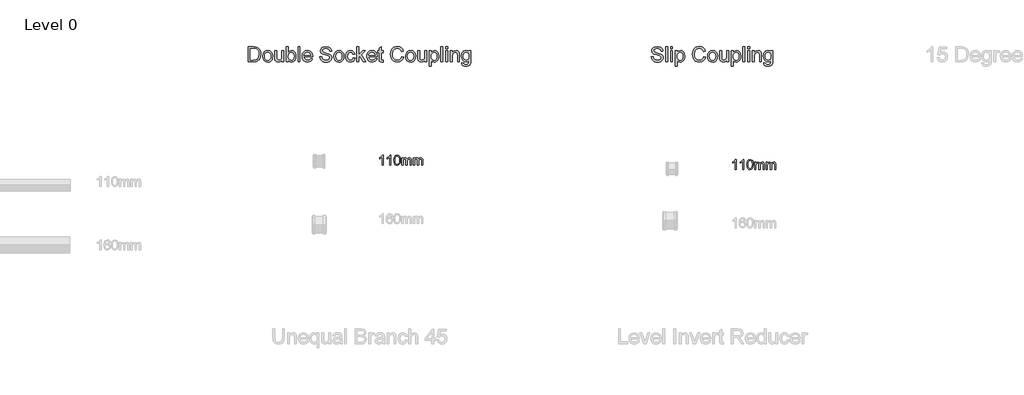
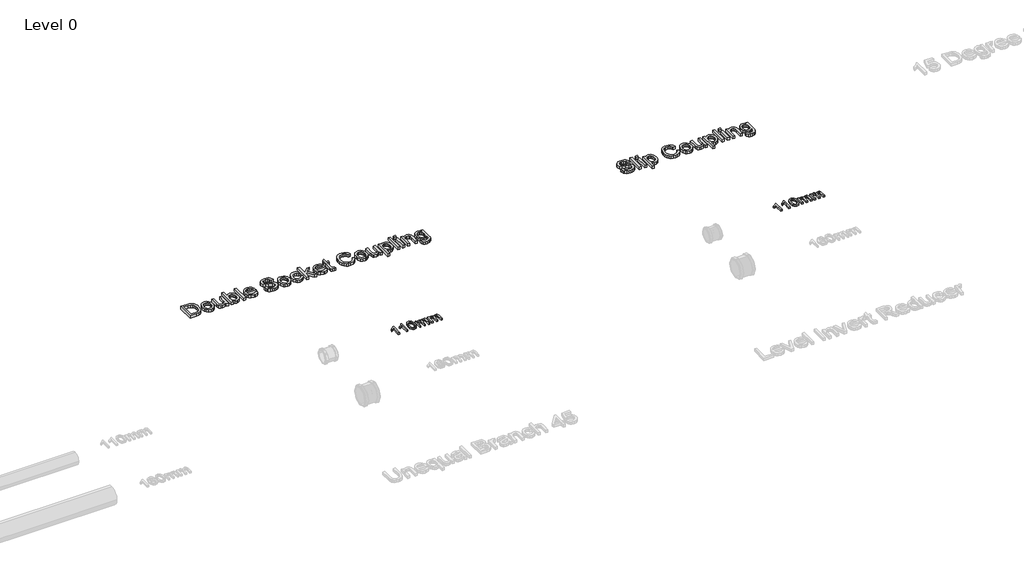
# One storey, part 6 of 15: 4 proxies.
"""IFC4 building model written with IfcOpenShell, lengths in millimetres."""

from ifc_helpers import new_model, si_unit, origin, origin_with_axes, place, context, project, spatial, polyline, outline, extrude, element, save

model = new_model("IFC4")

# Units and contexts
model_context = context("Model", 3, world=origin())
ifc_project = project(units=[si_unit("LENGTHUNIT", "METRE", prefix="MILLI")], contexts=[model_context])

# Site, building, storey
site = spatial("IfcSite", under=ifc_project)
building = spatial("IfcBuilding", under=site)
storey = spatial("IfcBuildingStorey", under=building, Name="Level 0", Elevation=0.0)

# Proxies
placement = place(None, origin())
element("IfcBuildingElementProxy", 1, Name="100mm Arial", ObjectType="100mm Arial", at=placement, inside=storey, context=model_context, shape_type="SweptSolid", body=[
    extrude(outline(polyline([(-17291.7293188, 8237.7167304), (-17304.0370111, 8237.7167304), (-17304.0370111, 8314.4474996), (-17315.6956649, 8306.1422111), (-17328.6523957, 8299.9282688), (-17328.6523957, 8311.5628842), (-17310.6115303, 8323.0773073), (-17299.6620111, 8336.1782688), (-17291.7293188, 8336.1782688), (-17291.7293188, 8237.7167304)])), origin_with_axes(), (0.0, 0.0, 1.0), 15.0),
    extrude(outline(polyline([(-17216.3447034, 8237.7167304), (-17228.6523957, 8237.7167304), (-17228.6523957, 8314.4474996), (-17240.3110495, 8306.1422111), (-17253.2677803, 8299.9282688), (-17253.2677803, 8311.5628842), (-17235.2269149, 8323.0773073), (-17224.2773957, 8336.1782688), (-17216.3447034, 8336.1782688), (-17216.3447034, 8237.7167304)])), origin_with_axes(), (0.0, 0.0, 1.0), 15.0),
    extrude(outline(polyline([(-17187.1139341, 8286.1542304), (-17183.4961457, 8314.4835573), (-17172.7509534, 8330.8176919), (-17154.8062418, 8336.1782688), (-17140.4312418, 8333.0051919), (-17130.5033572, 8323.8585573), (-17124.7341264, 8309.2912496), (-17122.4985495, 8286.1542304), (-17126.0802803, 8257.9450958), (-17136.7894149, 8241.5749035), (-17154.8062418, 8236.1782688), (-17167.5947034, 8238.5220188), (-17177.3062418, 8245.5532688), (-17184.6620111, 8262.2059131), (-17187.1139341, 8286.1542304)]), holes=[polyline([(-17174.8062418, 8286.1782688), (-17173.3639341, 8266.8182929), (-17169.0370111, 8255.613365), (-17162.5947034, 8250.2678121), (-17154.8062418, 8248.4859611), (-17147.0177803, 8250.2738217), (-17140.5754726, 8255.6374035), (-17136.2485495, 8266.848341), (-17134.8062418, 8286.1782688), (-17136.2004726, 8305.1025477), (-17140.3831649, 8316.394615), (-17146.8134534, 8322.0015861), (-17154.9504726, 8323.8705765), (-17162.6547995, 8322.2239419), (-17168.8447034, 8317.2840381), (-17173.3158572, 8305.2888458), (-17174.8062418, 8286.1782688)])]), origin_with_axes(), (0.0, 0.0, 1.0), 15.0),
    extrude(outline(polyline([(-17108.6523957, 8237.7167304), (-17108.6523957, 8310.0244227), (-17096.3447034, 8310.0244227), (-17096.3447034, 8298.1253842), (-17087.8831649, 8307.8729804), (-17075.8398957, 8311.5628842), (-17063.5081649, 8307.800865), (-17056.7293188, 8297.2599996), (-17047.1259534, 8307.9871631), (-17034.9985495, 8311.5628842), (-17025.7467466, 8310.0755044), (-17018.9047995, 8305.613365), (-17014.6770351, 8298.0562736), (-17013.2677803, 8287.2840381), (-17013.2677803, 8237.7167304), (-17025.5754726, 8237.7167304), (-17025.5754726, 8281.9955765), (-17026.7172995, 8292.2720188), (-17030.8519149, 8297.332115), (-17037.8831649, 8299.2551919), (-17049.9865303, 8294.3273073), (-17054.8062418, 8278.5340381), (-17054.8062418, 8237.7167304), (-17067.1139341, 8237.7167304), (-17067.1139341, 8283.3657688), (-17069.9624918, 8295.2888458), (-17079.3014341, 8299.2551919), (-17088.4120111, 8296.6109611), (-17094.4697034, 8288.8705765), (-17096.3447034, 8274.1830765), (-17096.3447034, 8237.7167304), (-17108.6523957, 8237.7167304)])), origin_with_axes(), (0.0, 0.0, 1.0), 15.0),
    extrude(outline(polyline([(-16994.8062418, 8237.7167304), (-16994.8062418, 8310.0244227), (-16982.4985495, 8310.0244227), (-16982.4985495, 8298.1253842), (-16974.0370111, 8307.8729804), (-16961.9937418, 8311.5628842), (-16949.6620111, 8307.800865), (-16942.8831649, 8297.2599996), (-16933.2797995, 8307.9871631), (-16921.1523957, 8311.5628842), (-16911.9005928, 8310.0755044), (-16905.0586457, 8305.613365), (-16900.8308813, 8298.0562736), (-16899.4216264, 8287.2840381), (-16899.4216264, 8237.7167304), (-16911.7293188, 8237.7167304), (-16911.7293188, 8281.9955765), (-16912.8711457, 8292.2720188), (-16917.0057611, 8297.332115), (-16924.0370111, 8299.2551919), (-16936.1403764, 8294.3273073), (-16940.960088, 8278.5340381), (-16940.960088, 8237.7167304), (-16953.2677803, 8237.7167304), (-16953.2677803, 8283.3657688), (-16956.116338, 8295.2888458), (-16965.4552803, 8299.2551919), (-16974.5658572, 8296.6109611), (-16980.6235495, 8288.8705765), (-16982.4985495, 8274.1830765), (-16982.4985495, 8237.7167304), (-16994.8062418, 8237.7167304)])), origin_with_axes(), (0.0, 0.0, 1.0), 15.0),
])
element("IfcBuildingElementProxy", 2, Name="100mm Arial", ObjectType="100mm Arial", at=placement, inside=storey, context=model_context, shape_type="SweptSolid", body=[
    extrude(outline(polyline([(-20791.7293188, 8279.7032019), (-20804.0370111, 8279.7032019), (-20804.0370111, 8356.4339711), (-20815.6956649, 8348.1286827), (-20828.6523957, 8341.9147404), (-20828.6523957, 8353.5493557), (-20810.6115303, 8365.0637788), (-20799.6620111, 8378.1647404), (-20791.7293188, 8378.1647404), (-20791.7293188, 8279.7032019)])), origin_with_axes(), (0.0, 0.0, 1.0), 15.0),
    extrude(outline(polyline([(-20716.3447034, 8279.7032019), (-20728.6523957, 8279.7032019), (-20728.6523957, 8356.4339711), (-20740.3110495, 8348.1286827), (-20753.2677803, 8341.9147404), (-20753.2677803, 8353.5493557), (-20735.2269149, 8365.0637788), (-20724.2773957, 8378.1647404), (-20716.3447034, 8378.1647404), (-20716.3447034, 8279.7032019)])), origin_with_axes(), (0.0, 0.0, 1.0), 15.0),
    extrude(outline(polyline([(-20687.1139341, 8328.1407019), (-20683.4961457, 8356.4700288), (-20672.7509534, 8372.8041634), (-20654.8062418, 8378.1647404), (-20640.4312418, 8374.9916634), (-20630.5033572, 8365.8450288), (-20624.7341264, 8351.2777211), (-20622.4985495, 8328.1407019), (-20626.0802803, 8299.9315673), (-20636.7894149, 8283.561375), (-20654.8062418, 8278.1647404), (-20667.5947034, 8280.5084904), (-20677.3062418, 8287.5397404), (-20684.6620111, 8304.1923846), (-20687.1139341, 8328.1407019)]), holes=[polyline([(-20674.8062418, 8328.1647404), (-20673.3639341, 8308.8047644), (-20669.0370111, 8297.5998365), (-20662.5947034, 8292.2542836), (-20654.8062418, 8290.4724327), (-20647.0177803, 8292.2602932), (-20640.5754726, 8297.623875), (-20636.2485495, 8308.8348125), (-20634.8062418, 8328.1647404), (-20636.2004726, 8347.0890192), (-20640.3831649, 8358.3810865), (-20646.8134534, 8363.9880577), (-20654.9504726, 8365.857048), (-20662.6547995, 8364.2104134), (-20668.8447034, 8359.2705096), (-20673.3158572, 8347.2753173), (-20674.8062418, 8328.1647404)])]), origin_with_axes(), (0.0, 0.0, 1.0), 15.0),
    extrude(outline(polyline([(-20608.6523957, 8279.7032019), (-20608.6523957, 8352.0108942), (-20596.3447034, 8352.0108942), (-20596.3447034, 8340.1118557), (-20587.8831649, 8349.8594519), (-20575.8398957, 8353.5493557), (-20563.5081649, 8349.7873365), (-20556.7293188, 8339.2464711), (-20547.1259534, 8349.9736346), (-20534.9985495, 8353.5493557), (-20525.7467466, 8352.0619759), (-20518.9047995, 8347.5998365), (-20514.6770351, 8340.0427452), (-20513.2677803, 8329.2705096), (-20513.2677803, 8279.7032019), (-20525.5754726, 8279.7032019), (-20525.5754726, 8323.982048), (-20526.7172995, 8334.2584904), (-20530.8519149, 8339.3185865), (-20537.8831649, 8341.2416634), (-20549.9865303, 8336.3137788), (-20554.8062418, 8320.5205096), (-20554.8062418, 8279.7032019), (-20567.1139341, 8279.7032019), (-20567.1139341, 8325.3522404), (-20569.9624918, 8337.2753173), (-20579.3014341, 8341.2416634), (-20588.4120111, 8338.5974327), (-20594.4697034, 8330.857048), (-20596.3447034, 8316.169548), (-20596.3447034, 8279.7032019), (-20608.6523957, 8279.7032019)])), origin_with_axes(), (0.0, 0.0, 1.0), 15.0),
    extrude(outline(polyline([(-20494.8062418, 8279.7032019), (-20494.8062418, 8352.0108942), (-20482.4985495, 8352.0108942), (-20482.4985495, 8340.1118557), (-20474.0370111, 8349.8594519), (-20461.9937418, 8353.5493557), (-20449.6620111, 8349.7873365), (-20442.8831649, 8339.2464711), (-20433.2797995, 8349.9736346), (-20421.1523957, 8353.5493557), (-20411.9005928, 8352.0619759), (-20405.0586457, 8347.5998365), (-20400.8308813, 8340.0427452), (-20399.4216264, 8329.2705096), (-20399.4216264, 8279.7032019), (-20411.7293188, 8279.7032019), (-20411.7293188, 8323.982048), (-20412.8711457, 8334.2584904), (-20417.0057611, 8339.3185865), (-20424.0370111, 8341.2416634), (-20436.1403764, 8336.3137788), (-20440.960088, 8320.5205096), (-20440.960088, 8279.7032019), (-20453.2677803, 8279.7032019), (-20453.2677803, 8325.3522404), (-20456.116338, 8337.2753173), (-20465.4552803, 8341.2416634), (-20474.5658572, 8338.5974327), (-20480.6235495, 8330.857048), (-20482.4985495, 8316.169548), (-20482.4985495, 8279.7032019), (-20494.8062418, 8279.7032019)])), origin_with_axes(), (0.0, 0.0, 1.0), 15.0),
])
element("IfcBuildingElementProxy", 3, Name="150mm Arial", ObjectType="150mm Arial", at=placement, inside=storey, context=model_context, shape_type="SweptSolid", body=[
    extrude(outline(polyline([(-22132.1238255, 9305.2145219), (-22132.1238255, 9455.8989871), (-22080.1420996, 9455.8989871), (-22053.2499258, 9453.7284834), (-22031.1034297, 9442.9495409), (-22020.6831721, 9431.4716227), (-22013.2611529, 9417.1978012), (-22008.8189778, 9400.4039882), (-22007.3382528, 9381.3660949), (-22011.3481665, 9350.960648), (-22021.6488624, 9329.016487), (-22035.407649, 9315.3496709), (-22053.4154727, 9307.7896959), (-22077.640502, 9305.2145219), (-22132.1238255, 9305.2145219)]), holes=[polyline([(-22113.2882674, 9324.0500801), (-22079.9581586, 9324.0500801), (-22055.7147351, 9326.7724068), (-22041.7352193, 9334.4611405), (-22030.2756952, 9353.16794), (-22026.1738109, 9381.6604005), (-22028.1833663, 9402.1882158), (-22034.2120325, 9417.344954), (-22043.1193753, 9427.7560145), (-22053.7649606, 9434.0467966), (-22080.4731934, 9437.063429), (-22113.2882674, 9437.063429), (-22113.2882674, 9324.0500801)])]), origin_with_axes(), (0.0, 0.0, 1.0), 25.0),
    extrude(outline(polyline([(-21988.5026946, 9360.543974), (-21984.4284015, 9387.2246157), (-21972.2055222, 9405.9774004), (-21957.1039663, 9415.1652532), (-21939.0225663, 9418.2278708), (-21919.2351134, 9414.4984671), (-21903.4299832, 9403.3102559), (-21893.0695065, 9385.5461541), (-21889.6160143, 9362.0890784), (-21891.1427246, 9343.0603822), (-21895.7228554, 9328.5750286), (-21903.2230496, 9317.7271083), (-21913.5099499, 9309.6107118), (-21925.7282307, 9304.5477358), (-21939.0225663, 9302.8600771), (-21959.0491424, 9306.5756853), (-21974.8358785, 9317.7225098), (-21985.0859906, 9335.8590921), (-21988.5026946, 9360.543974)]), holes=[polyline([(-21969.6671365, 9360.5807622), (-21967.4874356, 9343.5340302), (-21960.9483332, 9331.3893259), (-21951.1074898, 9324.1190579), (-21939.0225663, 9321.6956353), (-21926.992825, 9324.1328535), (-21917.1703757, 9331.4445082), (-21910.6312733, 9343.7501609), (-21908.4515725, 9361.1693734), (-21910.6450689, 9377.7194646), (-21917.225558, 9389.6986221), (-21927.0618029, 9396.96889), (-21939.0225663, 9399.3923127), (-21951.1074898, 9396.9780871), (-21960.9483332, 9389.7354103), (-21967.4874356, 9377.6182971), (-21969.6671365, 9360.5807622)])]), origin_with_axes(), (0.0, 0.0, 1.0), 25.0),
    extrude(outline(polyline([(-21797.7926683, 9305.2145219), (-21797.7926683, 9324.2340211), (-21812.5447363, 9308.2035631), (-21831.7849647, 9302.8600771), (-21849.4984827, 9306.6124735), (-21861.712165, 9316.0302526), (-21867.3223654, 9329.8994038), (-21868.4260114, 9347.4105868), (-21868.4260114, 9415.8734261), (-21849.5904532, 9415.8734261), (-21849.5904532, 9356.2765428), (-21848.450019, 9337.0731027), (-21841.0004086, 9325.7975195), (-21826.9657105, 9321.6956353), (-21811.2387552, 9325.88949), (-21800.8460889, 9337.312226), (-21797.7926683, 9358.2998938), (-21797.7926683, 9415.8734261), (-21778.9571102, 9415.8734261), (-21778.9571102, 9305.2145219), (-21797.7926683, 9305.2145219)])), origin_with_axes(), (0.0, 0.0, 1.0), 25.0),
    extrude(outline(polyline([(-21734.2226595, 9305.2145219), (-21753.0582177, 9305.2145219), (-21753.0582177, 9455.8989871), (-21734.2226595, 9455.8989871), (-21734.2226595, 9400.0177121), (-21721.03409, 9413.6753311), (-21704.6449471, 9418.2278708), (-21685.7726008, 9414.1259866), (-21671.1308974, 9402.592886), (-21662.1361826, 9384.6586388), (-21658.8804269, 9362.199443), (-21662.2511457, 9337.0547086), (-21672.3633021, 9318.3479091), (-21687.202742, 9306.7320351), (-21704.7553117, 9302.8600771), (-21721.5031396, 9307.8540752), (-21734.2226595, 9322.8360695), (-21734.2226595, 9305.2145219)]), holes=[polyline([(-21734.2226595, 9361.3165262), (-21732.9350726, 9345.607965), (-21729.0723116, 9334.9761753), (-21719.2038771, 9325.0157703), (-21706.3739925, 9321.6956353), (-21695.5030796, 9324.1420506), (-21686.2140592, 9331.4812964), (-21679.8405036, 9343.6673875), (-21677.7159851, 9360.6543386), (-21679.7531316, 9377.8896101), (-21685.8645713, 9389.9377454), (-21694.8638846, 9397.0286709), (-21705.5646521, 9399.3923127), (-21716.4355651, 9396.9458974), (-21725.7245855, 9389.6066516), (-21732.098141, 9377.6412897), (-21734.2226595, 9361.3165262)])]), origin_with_axes(), (0.0, 0.0, 1.0), 25.0),
    extrude(outline(polyline([(-21637.690424, 9305.2145219), (-21637.690424, 9455.8989871), (-21618.8548659, 9455.8989871), (-21618.8548659, 9305.2145219), (-21637.690424, 9305.2145219)])), origin_with_axes(), (0.0, 0.0, 1.0), 25.0),
    extrude(outline(polyline([(-21513.1255804, 9338.1767487), (-21494.6579043, 9335.8223039), (-21501.3119699, 9321.9071674), (-21511.929964, 9311.505304), (-21526.2727632, 9305.0213839), (-21544.1012444, 9302.8600771), (-21566.2017553, 9306.5894809), (-21583.2071005, 9317.7776921), (-21594.0504223, 9335.6981437), (-21597.6648629, 9359.624269), (-21594.0136341, 9384.3551361), (-21583.0599477, 9402.8504034), (-21566.2845287, 9414.383504), (-21545.1681022, 9418.2278708), (-21524.7092648, 9414.392701), (-21508.3615086, 9402.8871916), (-21497.642347, 9384.4287125), (-21494.0692931, 9359.7346336), (-21494.1796577, 9354.6578621), (-21578.8293048, 9354.6578621), (-21575.5689506, 9340.5587846), (-21567.99518, 9330.1937094), (-21557.0644862, 9323.8201538), (-21543.7333624, 9321.6956353), (-21525.2656863, 9325.6319727), (-21513.1255804, 9338.1767487)]), holes=[polyline([(-21578.8293048, 9373.4934202), (-21512.9048512, 9373.4934202), (-21515.4524341, 9383.4446282), (-21520.4464321, 9390.5631448), (-21531.4277097, 9397.1850207), (-21545.2416786, 9399.3923127), (-21557.938206, 9397.6310776), (-21568.4366384, 9392.3473725), (-21575.7344975, 9384.1114143), (-21578.8293048, 9373.4934202)])]), origin_with_axes(), (0.0, 0.0, 1.0), 25.0),
    extrude(outline(polyline([(-21421.0815052, 9357.0123068), (-21402.2459471, 9357.0123068), (-21396.1758942, 9338.1583546), (-21381.3502498, 9326.2389779), (-21358.7622953, 9321.6956353), (-21339.0806085, 9325.135332), (-21326.3702856, 9334.5898992), (-21322.1948249, 9347.2266458), (-21325.3218219, 9358.9804755), (-21338.1241153, 9367.5337319), (-21365.5497181, 9374.7258249), (-21395.0722482, 9384.0148453), (-21411.0935091, 9398.0311493), (-21416.3726157, 9416.7563429), (-21414.7401394, 9427.7882042), (-21409.8427103, 9438.0751045), (-21401.8090872, 9446.7939078), (-21390.7680288, 9453.1214781), (-21362.8457854, 9458.2534319), (-21333.0473438, 9452.8823548), (-21321.6246079, 9446.2512818), (-21313.1817161, 9437.1002172), (-21307.8382301, 9425.999378), (-21305.7137116, 9413.5189813), (-21324.5492697, 9413.5189813), (-21328.0073605, 9424.7577763), (-21335.2178476, 9432.8695742), (-21346.4842337, 9437.7807989), (-21362.1100214, 9439.4178738), (-21378.1036912, 9437.799193), (-21389.0757717, 9432.9431506), (-21395.4217361, 9425.7970429), (-21397.5370576, 9417.3081658), (-21396.0379384, 9410.0700876), (-21391.540581, 9404.248355), (-21360.7856462, 9393.72693), (-21327.4555375, 9384.2723627), (-21316.7179817, 9377.4389546), (-21309.2269846, 9369.0052599), (-21304.8261962, 9359.063249), (-21303.3592668, 9347.7048924), (-21305.0469254, 9336.0936169), (-21310.1099014, 9325.1721202), (-21318.341261, 9315.7727352), (-21329.5340707, 9308.727795), (-21342.9939532, 9304.3270066), (-21358.0265313, 9302.8600771), (-21376.4804119, 9304.4419697), (-21391.6693397, 9309.1876475), (-21403.7680589, 9317.1155045), (-21412.9513132, 9328.2439348), (-21418.8466221, 9341.8003863), (-21421.0815052, 9357.0123068)])), origin_with_axes(), (0.0, 0.0, 1.0), 25.0),
    extrude(outline(polyline([(-21282.1692639, 9360.543974), (-21278.0949708, 9387.2246157), (-21265.8720915, 9405.9774004), (-21250.7705356, 9415.1652532), (-21232.6891355, 9418.2278708), (-21212.9016827, 9414.4984671), (-21197.0965525, 9403.3102559), (-21186.7360758, 9385.5461541), (-21183.2825836, 9362.0890784), (-21184.8092938, 9343.0603822), (-21189.3894247, 9328.5750286), (-21196.8896189, 9317.7271083), (-21207.1765192, 9309.6107118), (-21219.3947999, 9304.5477358), (-21232.6891355, 9302.8600771), (-21252.7157116, 9306.5756853), (-21268.5024477, 9317.7225098), (-21278.7525598, 9335.8590921), (-21282.1692639, 9360.543974)]), holes=[polyline([(-21263.3337057, 9360.5807622), (-21261.1540049, 9343.5340302), (-21254.6149024, 9331.3893259), (-21244.7740591, 9324.1190579), (-21232.6891355, 9321.6956353), (-21220.6593943, 9324.1328535), (-21210.836945, 9331.4445082), (-21204.2978425, 9343.7501609), (-21202.1181417, 9361.1693734), (-21204.3116381, 9377.7194646), (-21210.8921273, 9389.6986221), (-21220.7283722, 9396.96889), (-21232.6891355, 9399.3923127), (-21244.7740591, 9396.9780871), (-21254.6149024, 9389.7354103), (-21261.1540049, 9377.6182971), (-21263.3337057, 9360.5807622)])]), origin_with_axes(), (0.0, 0.0, 1.0), 25.0),
    extrude(outline(polyline([(-21091.4592376, 9345.240083), (-21072.6236794, 9342.8856382), (-21077.8751949, 9326.1332119), (-21087.7436294, 9313.4734727), (-21101.3000809, 9305.513426), (-21117.6156474, 9302.8600771), (-21137.6514206, 9306.5618897), (-21153.3185951, 9317.6673275), (-21163.4307514, 9335.6889467), (-21166.8014702, 9360.1393038), (-21165.3621319, 9376.9009272), (-21161.044117, 9391.4276675), (-21153.7784476, 9403.1585046), (-21143.4961458, 9411.5324185), (-21131.1950916, 9416.5540078), (-21117.8731648, 9418.2278708), (-21101.95767, 9415.9286084), (-21089.2335515, 9409.030821), (-21080.1054795, 9397.9023906), (-21074.9781242, 9382.9111993), (-21093.8136823, 9380.5567545), (-21102.5508797, 9394.665029), (-21117.726012, 9399.3923127), (-21129.8983075, 9397.0654591), (-21139.5598084, 9390.0848982), (-21145.8643861, 9378.0735511), (-21147.965912, 9360.6543386), (-21145.9103714, 9343.0006013), (-21139.7437494, 9330.9478675), (-21130.2569925, 9324.0086933), (-21118.2410468, 9321.6956353), (-21108.4875754, 9323.1395721), (-21100.4907406, 9327.4713826), (-21094.6736065, 9334.8014314), (-21091.4592376, 9345.240083)])), origin_with_axes(), (0.0, 0.0, 1.0), 25.0),
    extrude(outline(polyline([(-21056.142566, 9305.2145219), (-21056.142566, 9455.8989871), (-21037.3070079, 9455.8989871), (-21037.3070079, 9374.92816), (-20995.0741548, 9415.8734261), (-20969.0281096, 9415.8734261), (-21011.7759974, 9374.4131252), (-20966.6736648, 9305.2145219), (-20988.6730081, 9305.2145219), (-21025.2772666, 9361.3165262), (-21037.3070079, 9349.6546669), (-21037.3070079, 9305.2145219), (-21056.142566, 9305.2145219)])), origin_with_axes(), (0.0, 0.0, 1.0), 25.0),
    extrude(outline(polyline([(-20872.7166032, 9338.1767487), (-20854.2489271, 9335.8223039), (-20860.9029927, 9321.9071674), (-20871.5209868, 9311.505304), (-20885.863786, 9305.0213839), (-20903.6922672, 9302.8600771), (-20925.7927781, 9306.5894809), (-20942.7981233, 9317.7776921), (-20953.6414451, 9335.6981437), (-20957.2558857, 9359.624269), (-20953.6046569, 9384.3551361), (-20942.6509705, 9402.8504034), (-20925.8755515, 9414.383504), (-20904.759125, 9418.2278708), (-20884.3002876, 9414.392701), (-20867.9525314, 9402.8871916), (-20857.2333698, 9384.4287125), (-20853.6603159, 9359.7346336), (-20853.7706805, 9354.6578621), (-20938.4203276, 9354.6578621), (-20935.1599734, 9340.5587846), (-20927.5862028, 9330.1937094), (-20916.655509, 9323.8201538), (-20903.3243852, 9321.6956353), (-20884.8567091, 9325.6319727), (-20872.7166032, 9338.1767487)]), holes=[polyline([(-20938.4203276, 9373.4934202), (-20872.495874, 9373.4934202), (-20875.0434569, 9383.4446282), (-20880.0374549, 9390.5631448), (-20891.0187325, 9397.1850207), (-20904.8327014, 9399.3923127), (-20917.5292288, 9397.6310776), (-20928.0276612, 9392.3473725), (-20935.3255203, 9384.1114143), (-20938.4203276, 9373.4934202)])]), origin_with_axes(), (0.0, 0.0, 1.0), 25.0),
    extrude(outline(polyline([(-20794.7991967, 9320.9230831), (-20792.4447519, 9304.6626989), (-20806.5346323, 9302.8600771), (-20822.3167699, 9305.9870741), (-20830.1894446, 9314.1908426), (-20832.470313, 9335.5647865), (-20832.470313, 9397.0378679), (-20846.5969816, 9397.0378679), (-20846.5969816, 9415.8734261), (-20832.470313, 9415.8734261), (-20832.470313, 9442.7655999), (-20813.6347548, 9453.838848), (-20813.6347548, 9415.8734261), (-20794.7991967, 9415.8734261), (-20794.7991967, 9397.0378679), (-20813.6347548, 9397.0378679), (-20813.6347548, 9336.1166095), (-20812.6414734, 9326.4045248), (-20809.422506, 9322.9648282), (-20803.0029652, 9321.6956353), (-20794.7991967, 9320.9230831)])), origin_with_axes(), (0.0, 0.0, 1.0), 25.0),
    extrude(outline(polyline([(-20608.7980599, 9358.7781404), (-20589.9625017, 9353.9220981), (-20598.6537139, 9331.9733385), (-20612.2929389, 9315.9382821), (-20630.208792, 9306.1296284), (-20651.7298887, 9302.8600771), (-20673.5774807, 9305.3340836), (-20690.9277153, 9312.7561028), (-20704.2266494, 9324.8686175), (-20713.92034, 9341.4141102), (-20719.8386416, 9360.8658707), (-20721.8114088, 9381.6971887), (-20719.5811242, 9403.6689409), (-20712.8902704, 9422.6424548), (-20702.0883354, 9438.0153237), (-20687.5248069, 9449.1851407), (-20670.2527472, 9455.9863591), (-20651.3252185, 9458.2534319), (-20630.673243, 9455.319573), (-20613.5989199, 9446.5179963), (-20600.6356781, 9432.3913277), (-20592.3169465, 9413.4821931), (-20611.1525047, 9408.9940328), (-20617.6824101, 9422.7298268), (-20626.6035485, 9432.1522044), (-20638.0262844, 9437.6014564), (-20652.0609825, 9439.4178738), (-20668.2385933, 9437.4037198), (-20681.5283303, 9431.3612581), (-20691.6128955, 9421.9250849), (-20698.1749906, 9409.7297967), (-20702.9758507, 9381.7339769), (-20701.5549065, 9364.3331585), (-20697.2920738, 9349.2867849), (-20690.0264044, 9337.1696717), (-20679.5969499, 9328.5566345), (-20667.0935606, 9323.4108851), (-20653.6060869, 9321.6956353), (-20637.8837301, 9324.031686), (-20624.7825326, 9331.039838), (-20614.8911054, 9342.6465149), (-20608.7980599, 9358.7781404)])), origin_with_axes(), (0.0, 0.0, 1.0), 25.0),
    extrude(outline(polyline([(-20571.1269436, 9360.543974), (-20567.0526505, 9387.2246157), (-20554.8297712, 9405.9774004), (-20539.7282153, 9415.1652532), (-20521.6468152, 9418.2278708), (-20501.8593624, 9414.4984671), (-20486.0542322, 9403.3102559), (-20475.6937555, 9385.5461541), (-20472.2402633, 9362.0890784), (-20473.7669736, 9343.0603822), (-20478.3471044, 9328.5750286), (-20485.8472986, 9317.7271083), (-20496.1341989, 9309.6107118), (-20508.3524796, 9304.5477358), (-20521.6468152, 9302.8600771), (-20541.6733914, 9306.5756853), (-20557.4601275, 9317.7225098), (-20567.7102396, 9335.8590921), (-20571.1269436, 9360.543974)]), holes=[polyline([(-20552.2913854, 9360.5807622), (-20550.1116846, 9343.5340302), (-20543.5725822, 9331.3893259), (-20533.7317388, 9324.1190579), (-20521.6468152, 9321.6956353), (-20509.617074, 9324.1328535), (-20499.7946247, 9331.4445082), (-20493.2555223, 9343.7501609), (-20491.0758214, 9361.1693734), (-20493.2693178, 9377.7194646), (-20499.849807, 9389.6986221), (-20509.6860519, 9396.96889), (-20521.6468152, 9399.3923127), (-20533.7317388, 9396.9780871), (-20543.5725822, 9389.7354103), (-20550.1116846, 9377.6182971), (-20552.2913854, 9360.5807622)])]), origin_with_axes(), (0.0, 0.0, 1.0), 25.0),
    extrude(outline(polyline([(-20380.4169173, 9305.2145219), (-20380.4169173, 9324.2340211), (-20395.1689853, 9308.2035631), (-20414.4092136, 9302.8600771), (-20432.1227317, 9306.6124735), (-20444.336414, 9316.0302526), (-20449.9466144, 9329.8994038), (-20451.0502604, 9347.4105868), (-20451.0502604, 9415.8734261), (-20432.2147022, 9415.8734261), (-20432.2147022, 9356.2765428), (-20431.074268, 9337.0731027), (-20423.6246576, 9325.7975195), (-20409.5899595, 9321.6956353), (-20393.8630042, 9325.88949), (-20383.4703379, 9337.312226), (-20380.4169173, 9358.2998938), (-20380.4169173, 9415.8734261), (-20361.5813591, 9415.8734261), (-20361.5813591, 9305.2145219), (-20380.4169173, 9305.2145219)])), origin_with_axes(), (0.0, 0.0, 1.0), 25.0),
    extrude(outline(polyline([(-20335.6824667, 9262.8345161), (-20335.6824667, 9415.8734261), (-20316.8469085, 9415.8734261), (-20316.8469085, 9397.4057499), (-20303.8238859, 9413.0223406), (-20286.2391265, 9418.2278708), (-20273.5012124, 9416.406855), (-20262.363585, 9410.9438073), (-20253.2952939, 9402.1698217), (-20246.7653884, 9390.415992), (-20241.5046759, 9361.3901026), (-20242.9899995, 9345.2814697), (-20247.4459701, 9330.8742911), (-20254.7300336, 9318.8997321), (-20264.6996357, 9310.0889584), (-20276.3109112, 9304.6672975), (-20288.5199949, 9302.8600771), (-20304.9091378, 9307.6977254), (-20316.8469085, 9319.9298017), (-20316.8469085, 9262.8345161), (-20335.6824667, 9262.8345161)]), holes=[polyline([(-20316.8469085, 9359.6610572), (-20314.809762, 9342.7752736), (-20308.6983223, 9330.9662616), (-20299.6806149, 9324.0132919), (-20288.9246651, 9321.6956353), (-20277.9939713, 9324.0960653), (-20268.7463377, 9331.2973554), (-20262.44176, 9343.5386288), (-20260.3402341, 9361.0590088), (-20262.3911762, 9377.8528219), (-20268.5440026, 9389.8273808), (-20277.5479144, 9397.0010797), (-20288.1521129, 9399.3923127), (-20298.7976981, 9396.8493284), (-20308.1464993, 9389.2203755), (-20314.6718062, 9376.7445774), (-20316.8469085, 9359.6610572)])]), origin_with_axes(), (0.0, 0.0, 1.0), 25.0),
    extrude(outline(polyline([(-20220.314673, 9305.2145219), (-20220.314673, 9455.8989871), (-20201.4791148, 9455.8989871), (-20201.4791148, 9305.2145219), (-20220.314673, 9305.2145219)])), origin_with_axes(), (0.0, 0.0, 1.0), 25.0),
    extrude(outline(polyline([(-20173.2257776, 9305.2145219), (-20173.2257776, 9415.8734261), (-20154.3902195, 9415.8734261), (-20154.3902195, 9305.2145219), (-20173.2257776, 9305.2145219)])), origin_with_axes(), (0.0, 0.0, 1.0), 25.0),
    extrude(outline(polyline([(-20173.2257776, 9437.063429), (-20173.2257776, 9455.8989871), (-20154.3902195, 9455.8989871), (-20154.3902195, 9437.063429), (-20173.2257776, 9437.063429)])), origin_with_axes(), (0.0, 0.0, 1.0), 25.0),
    extrude(outline(polyline([(-20126.1368822, 9305.2145219), (-20126.1368822, 9415.8734261), (-20107.3013241, 9415.8734261), (-20107.3013241, 9400.4223823), (-20092.898744, 9413.7764987), (-20073.2354513, 9418.2278708), (-20055.4483569, 9414.6410214), (-20043.308251, 9405.2232423), (-20037.6612624, 9391.3724852), (-20036.667981, 9373.1623264), (-20036.667981, 9305.2145219), (-20055.5035392, 9305.2145219), (-20055.5035392, 9370.6239407), (-20057.6740429, 9387.288995), (-20065.3443825, 9396.0997688), (-20078.2754347, 9399.3923127), (-20089.307296, 9397.5437057), (-20098.7112795, 9391.9978846), (-20105.1538129, 9381.2833215), (-20107.3013241, 9363.9284883), (-20107.3013241, 9305.2145219), (-20126.1368822, 9305.2145219)])), origin_with_axes(), (0.0, 0.0, 1.0), 25.0),
    extrude(outline(polyline([(-20015.4779781, 9295.7967428), (-19996.6424199, 9293.4422981), (-19990.5355788, 9283.5094842), (-19972.2518436, 9279.3156295), (-19952.9748271, 9284.0613072), (-19943.7777772, 9297.3786354), (-19942.4901902, 9319.3411905), (-19955.7523362, 9308.7461891), (-19971.9207498, 9305.2145219), (-19991.3403207, 9309.3256032), (-20005.8210757, 9321.6588471), (-20014.8295861, 9339.7402472), (-20017.8324228, 9361.095797), (-20012.4429516, 9390.2872333), (-20005.8486669, 9402.1376321), (-19996.844755, 9410.9438073), (-19985.7393173, 9416.406855), (-19972.8404548, 9418.2278708), (-19956.0374447, 9414.1075925), (-19942.4901902, 9401.7467575), (-19942.4901902, 9415.8734261), (-19923.6546321, 9415.8734261), (-19923.6546321, 9320.3344719), (-19924.9422191, 9298.2753478), (-19928.80498, 9283.7486075), (-19935.4590456, 9274.1146978), (-19945.1205465, 9266.7340652), (-19957.5779506, 9262.0435698), (-19972.6197256, 9260.4800713), (-19990.1447042, 9262.6827648), (-20003.9448775, 9269.2908451), (-20012.797038, 9280.3227064), (-20015.4779781, 9295.7967428)]), holes=[polyline([(-19998.9968647, 9362.383384), (-19996.9873093, 9345.1067258), (-19990.9586431, 9333.2287359), (-19981.8949504, 9326.344744), (-19970.7803157, 9324.0500801), (-19959.7484543, 9326.3309484), (-19950.6387764, 9333.1735536), (-19944.5273368, 9344.8997921), (-19942.4901902, 9361.831561), (-19944.5871176, 9378.160923), (-19950.8778997, 9389.9193513), (-19960.1209349, 9397.0240723), (-19971.0746213, 9399.3923127), (-19981.8305711, 9397.0608605), (-19990.8482785, 9390.0665041), (-19996.9597181, 9378.4828198), (-19998.9968647, 9362.383384)])]), origin_with_axes(), (0.0, 0.0, 1.0), 25.0),
])
element("IfcBuildingElementProxy", 4, Name="150mm Arial", ObjectType="150mm Arial", at=placement, inside=storey, context=model_context, shape_type="SweptSolid", body=[
    extrude(outline(polyline([(-18134.1587569, 9357.0123068), (-18115.3231987, 9357.0123068), (-18109.2531458, 9338.1583546), (-18094.4275014, 9326.2389779), (-18071.8395469, 9321.6956353), (-18052.1578601, 9325.135332), (-18039.4475372, 9334.5898992), (-18035.2720766, 9347.2266458), (-18038.3990735, 9358.9804755), (-18051.2013669, 9367.5337319), (-18078.6269697, 9374.7258249), (-18108.1494998, 9384.0148453), (-18124.1707607, 9398.0311493), (-18129.4498673, 9416.7563429), (-18127.817391, 9427.7882042), (-18122.9199619, 9438.0751045), (-18114.8863388, 9446.7939078), (-18103.8452805, 9453.1214781), (-18075.923037, 9458.2534319), (-18046.1245954, 9452.8823548), (-18034.7018595, 9446.2512818), (-18026.2589677, 9437.1002172), (-18020.9154817, 9425.999378), (-18018.7909632, 9413.5189813), (-18037.6265213, 9413.5189813), (-18041.0846121, 9424.7577763), (-18048.2950992, 9432.8695742), (-18059.5614853, 9437.7807989), (-18075.187273, 9439.4178738), (-18091.1809428, 9437.799193), (-18102.1530233, 9432.9431506), (-18108.4989877, 9425.7970429), (-18110.6143092, 9417.3081658), (-18109.11519, 9410.0700876), (-18104.6178326, 9404.248355), (-18073.8628978, 9393.72693), (-18040.5327891, 9384.2723627), (-18029.7952333, 9377.4389546), (-18022.3042362, 9369.0052599), (-18017.9034479, 9359.063249), (-18016.4365184, 9347.7048924), (-18018.1241771, 9336.0936169), (-18023.187153, 9325.1721202), (-18031.4185127, 9315.7727352), (-18042.6113224, 9308.727795), (-18056.0712049, 9304.3270066), (-18071.1037829, 9302.8600771), (-18089.5576635, 9304.4419697), (-18104.7465913, 9309.1876475), (-18116.8453105, 9317.1155045), (-18126.0285648, 9328.2439348), (-18131.9238737, 9341.8003863), (-18134.1587569, 9357.0123068)])), origin_with_axes(), (0.0, 0.0, 1.0), 25.0),
    extrude(outline(polyline([(-17990.5376259, 9305.2145219), (-17990.5376259, 9455.8989871), (-17971.7020678, 9455.8989871), (-17971.7020678, 9305.2145219), (-17990.5376259, 9305.2145219)])), origin_with_axes(), (0.0, 0.0, 1.0), 25.0),
    extrude(outline(polyline([(-17943.4487306, 9305.2145219), (-17943.4487306, 9415.8734261), (-17924.6131724, 9415.8734261), (-17924.6131724, 9305.2145219), (-17943.4487306, 9305.2145219)])), origin_with_axes(), (0.0, 0.0, 1.0), 25.0),
    extrude(outline(polyline([(-17943.4487306, 9437.063429), (-17943.4487306, 9455.8989871), (-17924.6131724, 9455.8989871), (-17924.6131724, 9437.063429), (-17943.4487306, 9437.063429)])), origin_with_axes(), (0.0, 0.0, 1.0), 25.0),
    extrude(outline(polyline([(-17896.3598352, 9262.8345161), (-17896.3598352, 9415.8734261), (-17877.524277, 9415.8734261), (-17877.524277, 9397.4057499), (-17864.5012544, 9413.0223406), (-17846.916495, 9418.2278708), (-17834.1785809, 9416.406855), (-17823.0409535, 9410.9438073), (-17813.9726624, 9402.1698217), (-17807.4427569, 9390.415992), (-17802.1820444, 9361.3901026), (-17803.667368, 9345.2814697), (-17808.1233386, 9330.8742911), (-17815.4074021, 9318.8997321), (-17825.3770042, 9310.0889584), (-17836.9882797, 9304.6672975), (-17849.1973634, 9302.8600771), (-17865.5865063, 9307.6977254), (-17877.524277, 9319.9298017), (-17877.524277, 9262.8345161), (-17896.3598352, 9262.8345161)]), holes=[polyline([(-17877.524277, 9359.6610572), (-17875.4871305, 9342.7752736), (-17869.3756908, 9330.9662616), (-17860.3579834, 9324.0132919), (-17849.6020336, 9321.6956353), (-17838.6713398, 9324.0960653), (-17829.4237062, 9331.2973554), (-17823.1191285, 9343.5386288), (-17821.0176026, 9361.0590088), (-17823.0685447, 9377.8528219), (-17829.2213711, 9389.8273808), (-17838.2252829, 9397.0010797), (-17848.8294814, 9399.3923127), (-17859.4750666, 9396.8493284), (-17868.8238678, 9389.2203755), (-17875.3491747, 9376.7445774), (-17877.524277, 9359.6610572)])]), origin_with_axes(), (0.0, 0.0, 1.0), 25.0),
    extrude(outline(polyline([(-17613.8264629, 9358.7781404), (-17594.9909047, 9353.9220981), (-17603.6821169, 9331.9733385), (-17617.3213418, 9315.9382821), (-17635.237195, 9306.1296284), (-17656.7582917, 9302.8600771), (-17678.6058837, 9305.3340836), (-17695.9561183, 9312.7561028), (-17709.2550524, 9324.8686175), (-17718.948743, 9341.4141102), (-17724.8670446, 9360.8658707), (-17726.8398118, 9381.6971887), (-17724.6095272, 9403.6689409), (-17717.9186734, 9422.6424548), (-17707.1167383, 9438.0153237), (-17692.5532098, 9449.1851407), (-17675.2811502, 9455.9863591), (-17656.3536215, 9458.2534319), (-17635.701646, 9455.319573), (-17618.6273229, 9446.5179963), (-17605.6640811, 9432.3913277), (-17597.3453495, 9413.4821931), (-17616.1809076, 9408.9940328), (-17622.7108131, 9422.7298268), (-17631.6319514, 9432.1522044), (-17643.0546874, 9437.6014564), (-17657.0893855, 9439.4178738), (-17673.2669962, 9437.4037198), (-17686.5567333, 9431.3612581), (-17696.6412985, 9421.9250849), (-17703.2033936, 9409.7297967), (-17708.0042536, 9381.7339769), (-17706.5833094, 9364.3331585), (-17702.3204768, 9349.2867849), (-17695.0548074, 9337.1696717), (-17684.6253528, 9328.5566345), (-17672.1219635, 9323.4108851), (-17658.6344899, 9321.6956353), (-17642.9121331, 9324.031686), (-17629.8109356, 9331.039838), (-17619.9195084, 9342.6465149), (-17613.8264629, 9358.7781404)])), origin_with_axes(), (0.0, 0.0, 1.0), 25.0),
    extrude(outline(polyline([(-17576.1553466, 9360.543974), (-17572.0810535, 9387.2246157), (-17559.8581742, 9405.9774004), (-17544.7566183, 9415.1652532), (-17526.6752182, 9418.2278708), (-17506.8877654, 9414.4984671), (-17491.0826352, 9403.3102559), (-17480.7221585, 9385.5461541), (-17477.2686663, 9362.0890784), (-17478.7953765, 9343.0603822), (-17483.3755074, 9328.5750286), (-17490.8757016, 9317.7271083), (-17501.1626019, 9309.6107118), (-17513.3808826, 9304.5477358), (-17526.6752182, 9302.8600771), (-17546.7017943, 9306.5756853), (-17562.4885305, 9317.7225098), (-17572.7386425, 9335.8590921), (-17576.1553466, 9360.543974)]), holes=[polyline([(-17557.3197884, 9360.5807622), (-17555.1400876, 9343.5340302), (-17548.6009851, 9331.3893259), (-17538.7601418, 9324.1190579), (-17526.6752182, 9321.6956353), (-17514.645477, 9324.1328535), (-17504.8230277, 9331.4445082), (-17498.2839252, 9343.7501609), (-17496.1042244, 9361.1693734), (-17498.2977208, 9377.7194646), (-17504.87821, 9389.6986221), (-17514.7144549, 9396.96889), (-17526.6752182, 9399.3923127), (-17538.7601418, 9396.9780871), (-17548.6009851, 9389.7354103), (-17555.1400876, 9377.6182971), (-17557.3197884, 9360.5807622)])]), origin_with_axes(), (0.0, 0.0, 1.0), 25.0),
    extrude(outline(polyline([(-17385.4453203, 9305.2145219), (-17385.4453203, 9324.2340211), (-17400.1973883, 9308.2035631), (-17419.4376166, 9302.8600771), (-17437.1511347, 9306.6124735), (-17449.3648169, 9316.0302526), (-17454.9750174, 9329.8994038), (-17456.0786633, 9347.4105868), (-17456.0786633, 9415.8734261), (-17437.2431052, 9415.8734261), (-17437.2431052, 9356.2765428), (-17436.102671, 9337.0731027), (-17428.6530606, 9325.7975195), (-17414.6183625, 9321.6956353), (-17398.8914072, 9325.88949), (-17388.4987408, 9337.312226), (-17385.4453203, 9358.2998938), (-17385.4453203, 9415.8734261), (-17366.6097621, 9415.8734261), (-17366.6097621, 9305.2145219), (-17385.4453203, 9305.2145219)])), origin_with_axes(), (0.0, 0.0, 1.0), 25.0),
    extrude(outline(polyline([(-17340.7108697, 9262.8345161), (-17340.7108697, 9415.8734261), (-17321.8753115, 9415.8734261), (-17321.8753115, 9397.4057499), (-17308.8522889, 9413.0223406), (-17291.2675295, 9418.2278708), (-17278.5296154, 9416.406855), (-17267.391988, 9410.9438073), (-17258.3236968, 9402.1698217), (-17251.7937914, 9390.415992), (-17246.5330789, 9361.3901026), (-17248.0184024, 9345.2814697), (-17252.4743731, 9330.8742911), (-17259.7584366, 9318.8997321), (-17269.7280387, 9310.0889584), (-17281.3393142, 9304.6672975), (-17293.5483979, 9302.8600771), (-17309.9375408, 9307.6977254), (-17321.8753115, 9319.9298017), (-17321.8753115, 9262.8345161), (-17340.7108697, 9262.8345161)]), holes=[polyline([(-17321.8753115, 9359.6610572), (-17319.838165, 9342.7752736), (-17313.7267253, 9330.9662616), (-17304.7090179, 9324.0132919), (-17293.9530681, 9321.6956353), (-17283.0223743, 9324.0960653), (-17273.7747406, 9331.2973554), (-17267.4701629, 9343.5386288), (-17265.368637, 9361.0590088), (-17267.4195792, 9377.8528219), (-17273.5724055, 9389.8273808), (-17282.5763174, 9397.0010797), (-17293.1805159, 9399.3923127), (-17303.8261011, 9396.8493284), (-17313.1749023, 9389.2203755), (-17319.7002092, 9376.7445774), (-17321.8753115, 9359.6610572)])]), origin_with_axes(), (0.0, 0.0, 1.0), 25.0),
    extrude(outline(polyline([(-17225.343076, 9305.2145219), (-17225.343076, 9455.8989871), (-17206.5075178, 9455.8989871), (-17206.5075178, 9305.2145219), (-17225.343076, 9305.2145219)])), origin_with_axes(), (0.0, 0.0, 1.0), 25.0),
    extrude(outline(polyline([(-17178.2541806, 9305.2145219), (-17178.2541806, 9415.8734261), (-17159.4186224, 9415.8734261), (-17159.4186224, 9305.2145219), (-17178.2541806, 9305.2145219)])), origin_with_axes(), (0.0, 0.0, 1.0), 25.0),
    extrude(outline(polyline([(-17178.2541806, 9437.063429), (-17178.2541806, 9455.8989871), (-17159.4186224, 9455.8989871), (-17159.4186224, 9437.063429), (-17178.2541806, 9437.063429)])), origin_with_axes(), (0.0, 0.0, 1.0), 25.0),
    extrude(outline(polyline([(-17131.1652852, 9305.2145219), (-17131.1652852, 9415.8734261), (-17112.3297271, 9415.8734261), (-17112.3297271, 9400.4223823), (-17097.9271469, 9413.7764987), (-17078.2638543, 9418.2278708), (-17060.4767598, 9414.6410214), (-17048.336654, 9405.2232423), (-17042.6896654, 9391.3724852), (-17041.696384, 9373.1623264), (-17041.696384, 9305.2145219), (-17060.5319421, 9305.2145219), (-17060.5319421, 9370.6239407), (-17062.7024459, 9387.288995), (-17070.3727855, 9396.0997688), (-17083.3038376, 9399.3923127), (-17094.335699, 9397.5437057), (-17103.7396825, 9391.9978846), (-17110.1822159, 9381.2833215), (-17112.3297271, 9363.9284883), (-17112.3297271, 9305.2145219), (-17131.1652852, 9305.2145219)])), origin_with_axes(), (0.0, 0.0, 1.0), 25.0),
    extrude(outline(polyline([(-17020.5063811, 9295.7967428), (-17001.6708229, 9293.4422981), (-16995.5639818, 9283.5094842), (-16977.2802466, 9279.3156295), (-16958.0032301, 9284.0613072), (-16948.8061802, 9297.3786354), (-16947.5185932, 9319.3411905), (-16960.7807391, 9308.7461891), (-16976.9491528, 9305.2145219), (-16996.3687236, 9309.3256032), (-17010.8494787, 9321.6588471), (-17019.857989, 9339.7402472), (-17022.8608258, 9361.095797), (-17017.4713546, 9390.2872333), (-17010.8770698, 9402.1376321), (-17001.873158, 9410.9438073), (-16990.7677203, 9416.406855), (-16977.8688578, 9418.2278708), (-16961.0658477, 9414.1075925), (-16947.5185932, 9401.7467575), (-16947.5185932, 9415.8734261), (-16928.6830351, 9415.8734261), (-16928.6830351, 9320.3344719), (-16929.970622, 9298.2753478), (-16933.833383, 9283.7486075), (-16940.4874486, 9274.1146978), (-16950.1489495, 9266.7340652), (-16962.6063535, 9262.0435698), (-16977.6481286, 9260.4800713), (-16995.1731072, 9262.6827648), (-17008.9732805, 9269.2908451), (-17017.825441, 9280.3227064), (-17020.5063811, 9295.7967428)]), holes=[polyline([(-17004.0252677, 9362.383384), (-17002.0157123, 9345.1067258), (-16995.9870461, 9333.2287359), (-16986.9233534, 9326.344744), (-16975.8087186, 9324.0500801), (-16964.7768573, 9326.3309484), (-16955.6671794, 9333.1735536), (-16949.5557398, 9344.8997921), (-16947.5185932, 9361.831561), (-16949.6155206, 9378.160923), (-16955.9063027, 9389.9193513), (-16965.1493378, 9397.0240723), (-16976.1030242, 9399.3923127), (-16986.8589741, 9397.0608605), (-16995.8766815, 9390.0665041), (-17001.9881211, 9378.4828198), (-17004.0252677, 9362.383384)])]), origin_with_axes(), (0.0, 0.0, 1.0), 25.0),
])

save(model, "model.ifc")
